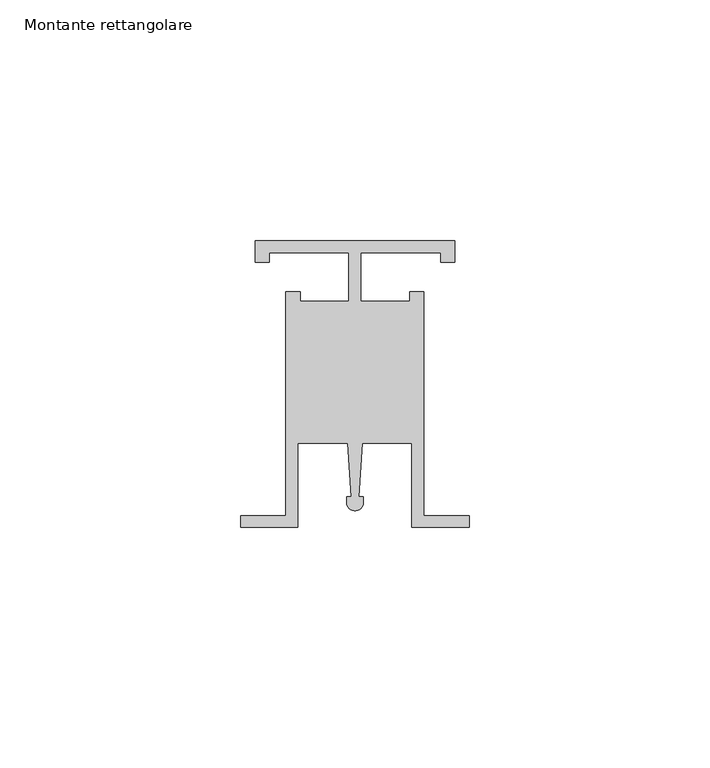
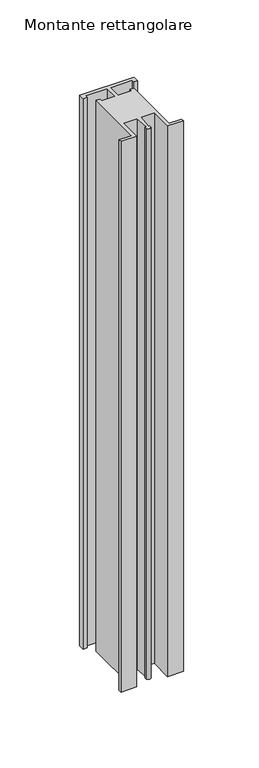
"""IFC4 building model written with IfcOpenShell, lengths in millimetres: member geometry, Montante rettangolare : Verde Profilo's Uprights."""

from ifc_helpers import new_model, si_unit, point, frame, frame_2d, origin, place, context, project, spatial, polyline, circle_curve, trimmed, segment, composite_curve, outline, extrude, source, transform, mapped, element, save


def montante_rettangolare_3784d46b(model_context):
    return source(origin(), model_context, "Body", "SweptSolid", [
        extrude(outline(composite_curve([segment(polyline([(-3.0, 0.0), (-3.0, -4.4643434), (-5.9763281, -4.4643434), (-5.9763281, -2.4801246), (-22.5192241, -2.4801246), (-22.5192241, -12.5992217), (-12.4008018, -12.5992217), (-12.4008018, -10.6150029), (-9.4244736, -10.6150029), (-9.4244736, -57.1992491), (0.0, -57.1992491), (0.0, -59.5229914), (-11.9045983, -59.5229914), (-11.9045983, -42.1200913), (-22.2878429, -42.1200913), (-23.0155567, -53.2310496), (-22.0219337, -53.2310496), (-22.0219337, -54.4070013)]), True, "CONTINUOUS"), segment(trimmed(circle_curve(frame_2d((-23.7595941, -54.4070013)), 1.7376604), [point((-22.0219337, -54.4070013))], [point((-25.4972545, -54.4070013))], False, "CARTESIAN"), True, "CONTINUOUS"), segment(polyline([(-25.4972545, -54.4070013), (-25.4972545, -53.2310496), (-24.5036314, -53.2310496), (-25.2313452, -42.1200913), (-35.6145898, -42.1200913), (-35.6145898, -59.5229914), (-47.5191881, -59.5229914), (-47.5191881, -57.1992491), (-38.0947145, -57.1992491), (-38.0947145, -10.6150029), (-35.1183863, -10.6150029), (-35.1183863, -12.5992217), (-24.999964, -12.5992217), (-24.999964, -2.4801246), (-41.54286, -2.4801246), (-41.54286, -4.4643434), (-44.5191881, -4.4643434), (-44.5191881, 0.0), (-3.0, 0.0)]), True, "CONTINUOUS")], self_intersect=False)), frame((0.0, 0.0, -442.8571429), z_axis=(0.0, 0.0, 1.0), x_axis=(1.0, 0.0, 0.0)), (0.0, 0.0, 1.0), 442.8571429),
    ])


if __name__ == "__main__":
    model = new_model("IFC4")
    model_context = context("Model", 3, world=origin())
    ifc_project = project(units=[si_unit("LENGTHUNIT", "METRE", prefix="MILLI")], contexts=[model_context])
    site = spatial("IfcSite", under=ifc_project)
    building = spatial("IfcBuilding", under=site)
    placement = place(None, origin())
    montante_rettangolare_shape = montante_rettangolare_3784d46b(model_context)
    element("IfcMember", 1, ObjectType="Montante rettangolare : Verde Profilo's Uprights", at=placement, inside=building, context=model_context, shape_type="MappedRepresentation", body=[
        mapped(montante_rettangolare_shape, transform((0.0, 0.0, 0.0), x_axis=(1.0, 0.0, 0.0), y_axis=(0.0, 1.0, 0.0), z_axis=(0.0, 0.0, 1.0))),
    ])
    save(model, "model.ifc")
